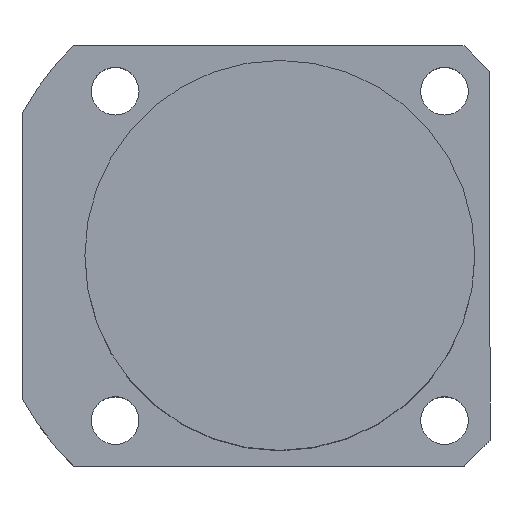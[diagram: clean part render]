
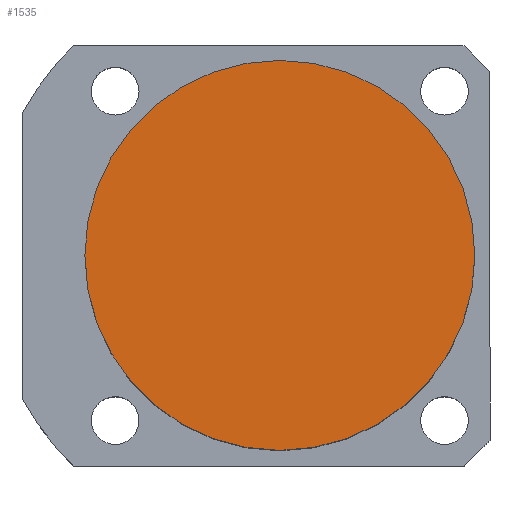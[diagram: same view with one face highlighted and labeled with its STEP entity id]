
A CAD part, top view. The second image highlights one B-rep face of the part: STEP entity #1535.
In plain terms, the highlighted planar face has unit normal (0, 0, 1).
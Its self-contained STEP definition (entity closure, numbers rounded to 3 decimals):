
#1 = DIRECTION ( 'NONE',  ( 1., 0., 0. ) ) ;
#28 = VERTEX_POINT ( 'NONE', #694 ) ;
#61 = PLANE ( 'NONE',  #2084 ) ;
#158 = AXIS2_PLACEMENT_3D ( 'NONE', #970, #983, #1 ) ;
#213 = ORIENTED_EDGE ( 'NONE', *, *, #1436, .T. ) ;
#214 = DIRECTION ( 'NONE',  ( 0., 0., 1. ) ) ;
#336 = CARTESIAN_POINT ( 'NONE',  ( 0., 0., 79.5 ) ) ;
#351 = EDGE_CURVE ( 'NONE', #1185, #28, #1199, .T. ) ;
#659 = CARTESIAN_POINT ( 'NONE',  ( 0., 0., 79.5 ) ) ;
#694 = CARTESIAN_POINT ( 'NONE',  ( -45., 0., 79.5 ) ) ;
#812 = DIRECTION ( 'NONE',  ( 1., 0., 0. ) ) ;
#970 = CARTESIAN_POINT ( 'NONE',  ( 0., 0., 79.5 ) ) ;
#983 = DIRECTION ( 'NONE',  ( 0., 0., 1. ) ) ;
#993 = DIRECTION ( 'NONE',  ( 1., 0., 0. ) ) ;
#1030 = DIRECTION ( 'NONE',  ( 0., 0., 1. ) ) ;
#1185 = VERTEX_POINT ( 'NONE', #1967 ) ;
#1199 = CIRCLE ( 'NONE', #158, 45. ) ;
#1436 = EDGE_CURVE ( 'NONE', #28, #1185, #1951, .T. ) ;
#1535 = ADVANCED_FACE ( 'NONE', ( #1633 ), #61, .T. ) ;
#1633 = FACE_OUTER_BOUND ( 'NONE', #1888, .T. ) ;
#1758 = AXIS2_PLACEMENT_3D ( 'NONE', #336, #1030, #812 ) ;
#1888 = EDGE_LOOP ( 'NONE', ( #213, #2107 ) ) ;
#1951 = CIRCLE ( 'NONE', #1758, 45. ) ;
#1967 = CARTESIAN_POINT ( 'NONE',  ( 45., 0., 79.5 ) ) ;
#2084 = AXIS2_PLACEMENT_3D ( 'NONE', #659, #214, #993 ) ;
#2107 = ORIENTED_EDGE ( 'NONE', *, *, #351, .T. ) ;
